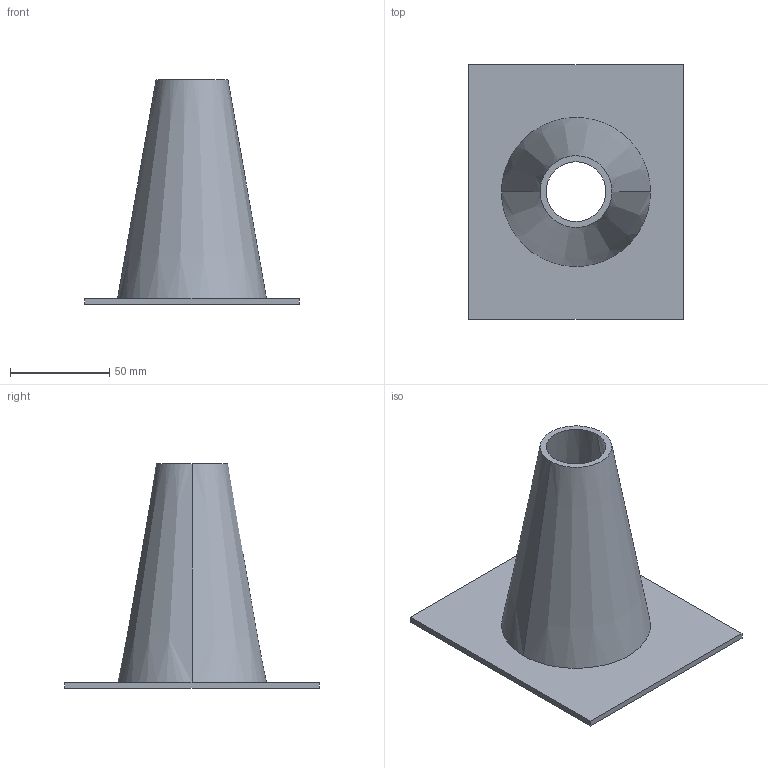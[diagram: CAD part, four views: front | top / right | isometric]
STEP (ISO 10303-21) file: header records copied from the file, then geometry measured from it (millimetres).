
FILE_DESCRIPTION(('CATIA V5 STEP Exchange'),'2;1');
FILE_NAME('C:\_Andres\UNIVERSIDAD\IQS\ASIGNATURAS\DAO\EXF\EXF-15161c\1original\Perelló_Ibarra_Ej08-ensambla_v18.stp','2016-03-04T21:37:18+00:00',('none'),('none'),'CATIA Version 5 Release 20 SP 1 (IN-10)','CATIA V5 STEP AP203','none');
FILE_SCHEMA(('CONFIG_CONTROL_DESIGN'));
Length unit declared in the file: millimetre
Products named in the file (1): Perelló_Ibarra_Ej08-ensambla_v18
Bounding box: 108 x 128 x 113 mm (x, y, z)
Volume: 85356 mm3; surface area: 58612.1 mm2
Topology: 1 solids, 1 shells, 11 faces, 24 edges, 16 vertices
Faces by surface type: plane 7, cone 4
Entity records: 414 total; most frequent: CARTESIAN_POINT 127, ORIENTED_EDGE 48, DIRECTION 44, EDGE_CURVE 24, AXIS2_PLACEMENT_3D 17, VECTOR 16, LINE 16, VERTEX_POINT 16
